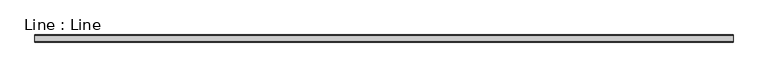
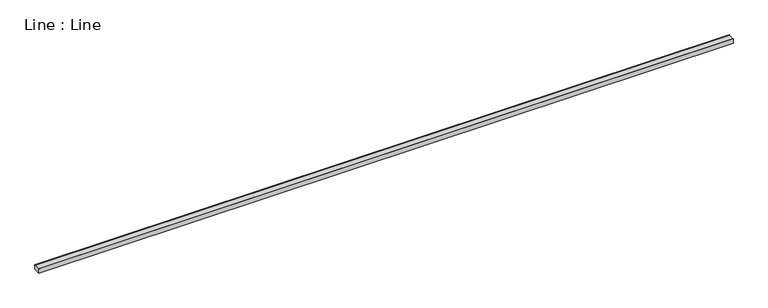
"""IFC4 building model written with IfcOpenShell, lengths in millimetres: light fixture geometry, Line : Line."""

from ifc_helpers import new_model, si_unit, frame, origin, place, context, project, spatial, polyline, outline, extrude, source, transform, mapped, element, save


def line_line_8c0a3c7e(model_context):
    return source(origin(), model_context, "Body", "SweptSolid", [
        extrude(outline(polyline([(-13.2699605, -0.6594598), (13.2699605, -0.6594598), (13.2699605, 0.4921885), (15.2699605, 0.4921885), (15.2699605, -18.9218892), (-15.2699605, -18.9218892), (-15.2699605, 0.4921885), (-13.2699605, 0.4921885), (-13.2699605, -0.6594598)])), frame((0.0, 0.0, 0.0), z_axis=(1.0, 0.0, 0.0), x_axis=(0.0, 1.0, 0.0)), (0.0, 0.0, 1.0), 2998.844619),
    ])


if __name__ == "__main__":
    model = new_model("IFC4")
    model_context = context("Model", 3, world=origin())
    ifc_project = project(units=[si_unit("LENGTHUNIT", "METRE", prefix="MILLI")], contexts=[model_context])
    site = spatial("IfcSite", under=ifc_project)
    building = spatial("IfcBuilding", under=site)
    placement = place(None, origin())
    line_line_shape = line_line_8c0a3c7e(model_context)
    element("IfcLightFixture", 1, ObjectType="Line : Line", at=placement, inside=building, context=model_context, shape_type="MappedRepresentation", body=[
        mapped(line_line_shape, transform((0.0, 0.0, 0.0), x_axis=(1.0, 0.0, 0.0), y_axis=(0.0, 1.0, 0.0), z_axis=(0.0, 0.0, 1.0))),
    ])
    save(model, "model.ifc")
